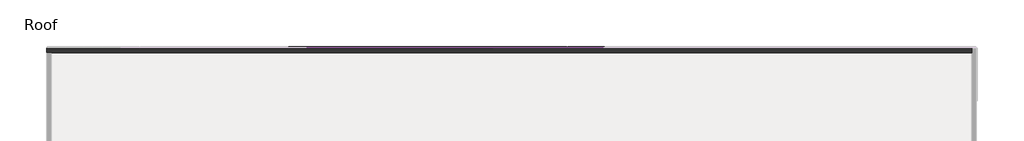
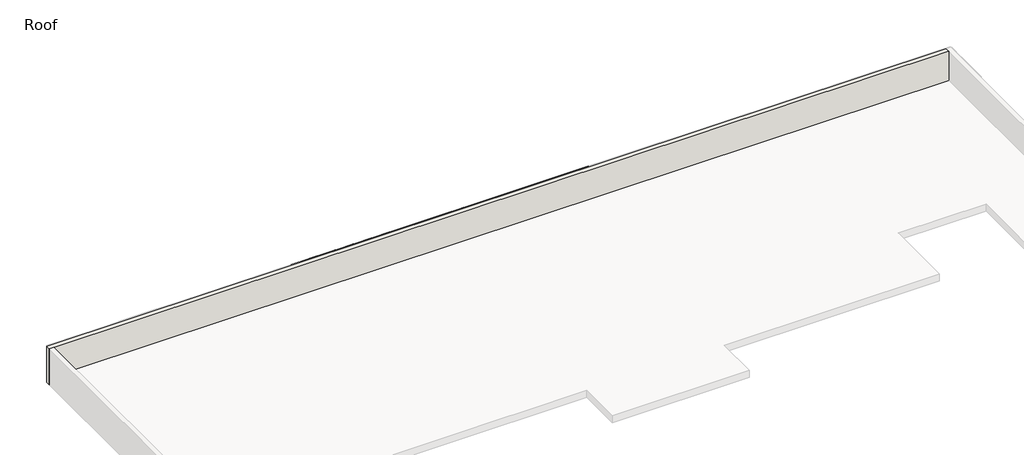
# One storey, part 3 of 5: 85 members, 34 plates, 1 wall.
"""IFC4 building model written with IfcOpenShell, lengths in millimetres."""

from ifc_helpers import new_model, si_unit, origin, place, context, project, spatial, faceted_brep, transform, mapped, element, save
from components import rectangular_mullion_25x25mm_ef735152, rectangular_mullion_25x25mm_e862664b, rectangular_mullion_25x25mm_75dba7a0, curtain_panels_solid_solid_panel_green_f9f5bd6f

model = new_model("IFC4")

# Units and contexts
model_context = context("Model", 3, world=origin())
ifc_project = project(units=[si_unit("LENGTHUNIT", "METRE", prefix="MILLI")], contexts=[model_context])

# Site, building, storey
site = spatial("IfcSite", under=ifc_project)
building = spatial("IfcBuilding", under=site)
storey = spatial("IfcBuildingStorey", under=building, Name="Roof", Elevation=14600.0)

# Members
placement = place(None, origin())
rectangular_mullion_25x25mm_shape = rectangular_mullion_25x25mm_ef735152(model_context)
element("IfcMember", 1, ObjectType="Rectangular Mullion : 25x25mm", at=placement, inside=storey, context=model_context, shape_type="MappedRepresentation", body=[
    mapped(rectangular_mullion_25x25mm_shape, transform((9099.0216521, 9309.2487558, 14625.0), x_axis=(-1.0, 0.0, 0.0), y_axis=(0.0, 1.0, 0.0), z_axis=(0.0, 0.0, -1.0))),
])
element("IfcMember", 2, ObjectType="Rectangular Mullion : 25x25mm", at=placement, inside=storey, context=model_context, shape_type="MappedRepresentation", body=[
    mapped(rectangular_mullion_25x25mm_shape, transform((9993.2919833, 9309.2487558, 14625.0), x_axis=(-1.0, 0.0, 0.0), y_axis=(0.0, 1.0, 0.0), z_axis=(0.0, 0.0, -1.0))),
])
element("IfcMember", 3, ObjectType="Rectangular Mullion : 25x25mm", at=placement, inside=storey, context=model_context, shape_type="MappedRepresentation", body=[
    mapped(rectangular_mullion_25x25mm_shape, transform((10887.5623144, 9309.2487558, 14625.0), x_axis=(-1.0, 0.0, 0.0), y_axis=(0.0, 1.0, 0.0), z_axis=(0.0, 0.0, -1.0))),
])
element("IfcMember", 4, ObjectType="Rectangular Mullion : 25x25mm", at=placement, inside=storey, context=model_context, shape_type="MappedRepresentation", body=[
    mapped(rectangular_mullion_25x25mm_shape, transform((11781.8326456, 9309.2487558, 14625.0), x_axis=(-1.0, 0.0, 0.0), y_axis=(0.0, 1.0, 0.0), z_axis=(0.0, 0.0, -1.0))),
])
element("IfcMember", 5, ObjectType="Rectangular Mullion : 25x25mm", at=placement, inside=storey, context=model_context, shape_type="MappedRepresentation", body=[
    mapped(rectangular_mullion_25x25mm_shape, transform((12676.1029768, 9309.2487558, 14625.0), x_axis=(-1.0, 0.0, 0.0), y_axis=(0.0, 1.0, 0.0), z_axis=(0.0, 0.0, -1.0))),
])
element("IfcMember", 6, ObjectType="Rectangular Mullion : 25x25mm", at=placement, inside=storey, context=model_context, shape_type="MappedRepresentation", body=[
    mapped(rectangular_mullion_25x25mm_shape, transform((13570.3733079, 9309.2487558, 14625.0), x_axis=(-1.0, 0.0, 0.0), y_axis=(0.0, 1.0, 0.0), z_axis=(0.0, 0.0, -1.0))),
])
element("IfcMember", 7, ObjectType="Rectangular Mullion : 25x25mm", at=placement, inside=storey, context=model_context, shape_type="MappedRepresentation", body=[
    mapped(rectangular_mullion_25x25mm_shape, transform((14464.6436391, 9309.2487558, 14625.0), x_axis=(-1.0, 0.0, 0.0), y_axis=(0.0, 1.0, 0.0), z_axis=(0.0, 0.0, -1.0))),
])
element("IfcMember", 8, ObjectType="Rectangular Mullion : 25x25mm", at=placement, inside=storey, context=model_context, shape_type="MappedRepresentation", body=[
    mapped(rectangular_mullion_25x25mm_shape, transform((15358.9139703, 9309.2487558, 14625.0), x_axis=(-1.0, 0.0, 0.0), y_axis=(0.0, 1.0, 0.0), z_axis=(0.0, 0.0, -1.0))),
])
element("IfcMember", 9, ObjectType="Rectangular Mullion : 25x25mm", at=placement, inside=storey, context=model_context, shape_type="MappedRepresentation", body=[
    mapped(rectangular_mullion_25x25mm_shape, transform((16253.1843014, 9309.2487558, 14625.0), x_axis=(-1.0, 0.0, 0.0), y_axis=(0.0, 1.0, 0.0), z_axis=(0.0, 0.0, -1.0))),
])
element("IfcMember", 10, ObjectType="Rectangular Mullion : 25x25mm", at=placement, inside=storey, context=model_context, shape_type="MappedRepresentation", body=[
    mapped(rectangular_mullion_25x25mm_shape, transform((17147.4546326, 9309.2487558, 14625.0), x_axis=(-1.0, 0.0, 0.0), y_axis=(0.0, 1.0, 0.0), z_axis=(0.0, 0.0, -1.0))),
])
element("IfcMember", 11, ObjectType="Rectangular Mullion : 25x25mm", at=placement, inside=storey, context=model_context, shape_type="MappedRepresentation", body=[
    mapped(rectangular_mullion_25x25mm_shape, transform((18041.7249638, 9309.2487558, 14625.0), x_axis=(-1.0, 0.0, 0.0), y_axis=(0.0, 1.0, 0.0), z_axis=(0.0, 0.0, -1.0))),
])
element("IfcMember", 12, ObjectType="Rectangular Mullion : 25x25mm", at=placement, inside=storey, context=model_context, shape_type="MappedRepresentation", body=[
    mapped(rectangular_mullion_25x25mm_shape, transform((18935.9952949, 9309.2487558, 14625.0), x_axis=(-1.0, 0.0, 0.0), y_axis=(0.0, 1.0, 0.0), z_axis=(0.0, 0.0, -1.0))),
])
element("IfcMember", 13, ObjectType="Rectangular Mullion : 25x25mm", at=placement, inside=storey, context=model_context, shape_type="MappedRepresentation", body=[
    mapped(rectangular_mullion_25x25mm_shape, transform((19830.2656261, 9309.2487558, 14625.0), x_axis=(-1.0, 0.0, 0.0), y_axis=(0.0, 1.0, 0.0), z_axis=(0.0, 0.0, -1.0))),
])
element("IfcMember", 14, ObjectType="Rectangular Mullion : 25x25mm", at=placement, inside=storey, context=model_context, shape_type="MappedRepresentation", body=[
    mapped(rectangular_mullion_25x25mm_shape, transform((20724.5359573, 9309.2487558, 14625.0), x_axis=(-1.0, 0.0, 0.0), y_axis=(0.0, 1.0, 0.0), z_axis=(0.0, 0.0, -1.0))),
])
element("IfcMember", 15, ObjectType="Rectangular Mullion : 25x25mm", at=placement, inside=storey, context=model_context, shape_type="MappedRepresentation", body=[
    mapped(rectangular_mullion_25x25mm_shape, transform((21618.8062884, 9309.2487558, 14625.0), x_axis=(-1.0, 0.0, 0.0), y_axis=(0.0, 1.0, 0.0), z_axis=(0.0, 0.0, -1.0))),
])
element("IfcMember", 16, ObjectType="Rectangular Mullion : 25x25mm", at=placement, inside=storey, context=model_context, shape_type="MappedRepresentation", body=[
    mapped(rectangular_mullion_25x25mm_shape, transform((22513.0766196, 9309.2487558, 14625.0), x_axis=(-1.0, 0.0, 0.0), y_axis=(0.0, 1.0, 0.0), z_axis=(0.0, 0.0, -1.0))),
])
element("IfcMember", 17, ObjectType="Rectangular Mullion : 25x25mm", at=placement, inside=storey, context=model_context, shape_type="MappedRepresentation", body=[
    mapped(rectangular_mullion_25x25mm_shape, transform((23407.3469508, 9309.2487558, 14625.0), x_axis=(-1.0, 0.0, 0.0), y_axis=(0.0, 1.0, 0.0), z_axis=(0.0, 0.0, -1.0))),
])
element("IfcMember", 18, ObjectType="Rectangular Mullion : 25x25mm", at=placement, inside=storey, context=model_context, shape_type="MappedRepresentation", body=[
    mapped(rectangular_mullion_25x25mm_shape, transform((9099.0216521, 9309.2487558, 15550.0), x_axis=(-1.0, 0.0, 0.0), y_axis=(0.0, 1.0, 0.0), z_axis=(0.0, 0.0, -1.0))),
])
element("IfcMember", 19, ObjectType="Rectangular Mullion : 25x25mm", at=placement, inside=storey, context=model_context, shape_type="MappedRepresentation", body=[
    mapped(rectangular_mullion_25x25mm_shape, transform((9993.2919833, 9309.2487558, 15550.0), x_axis=(-1.0, 0.0, 0.0), y_axis=(0.0, 1.0, 0.0), z_axis=(0.0, 0.0, -1.0))),
])
element("IfcMember", 20, ObjectType="Rectangular Mullion : 25x25mm", at=placement, inside=storey, context=model_context, shape_type="MappedRepresentation", body=[
    mapped(rectangular_mullion_25x25mm_shape, transform((10887.5623144, 9309.2487558, 15550.0), x_axis=(-1.0, 0.0, 0.0), y_axis=(0.0, 1.0, 0.0), z_axis=(0.0, 0.0, -1.0))),
])
element("IfcMember", 21, ObjectType="Rectangular Mullion : 25x25mm", at=placement, inside=storey, context=model_context, shape_type="MappedRepresentation", body=[
    mapped(rectangular_mullion_25x25mm_shape, transform((11781.8326456, 9309.2487558, 15550.0), x_axis=(-1.0, 0.0, 0.0), y_axis=(0.0, 1.0, 0.0), z_axis=(0.0, 0.0, -1.0))),
])
element("IfcMember", 22, ObjectType="Rectangular Mullion : 25x25mm", at=placement, inside=storey, context=model_context, shape_type="MappedRepresentation", body=[
    mapped(rectangular_mullion_25x25mm_shape, transform((12676.1029768, 9309.2487558, 15550.0), x_axis=(-1.0, 0.0, 0.0), y_axis=(0.0, 1.0, 0.0), z_axis=(0.0, 0.0, -1.0))),
])
element("IfcMember", 23, ObjectType="Rectangular Mullion : 25x25mm", at=placement, inside=storey, context=model_context, shape_type="MappedRepresentation", body=[
    mapped(rectangular_mullion_25x25mm_shape, transform((13570.3733079, 9309.2487558, 15550.0), x_axis=(-1.0, 0.0, 0.0), y_axis=(0.0, 1.0, 0.0), z_axis=(0.0, 0.0, -1.0))),
])
element("IfcMember", 24, ObjectType="Rectangular Mullion : 25x25mm", at=placement, inside=storey, context=model_context, shape_type="MappedRepresentation", body=[
    mapped(rectangular_mullion_25x25mm_shape, transform((14464.6436391, 9309.2487558, 15550.0), x_axis=(-1.0, 0.0, 0.0), y_axis=(0.0, 1.0, 0.0), z_axis=(0.0, 0.0, -1.0))),
])
element("IfcMember", 25, ObjectType="Rectangular Mullion : 25x25mm", at=placement, inside=storey, context=model_context, shape_type="MappedRepresentation", body=[
    mapped(rectangular_mullion_25x25mm_shape, transform((15358.9139703, 9309.2487558, 15550.0), x_axis=(-1.0, 0.0, 0.0), y_axis=(0.0, 1.0, 0.0), z_axis=(0.0, 0.0, -1.0))),
])
element("IfcMember", 26, ObjectType="Rectangular Mullion : 25x25mm", at=placement, inside=storey, context=model_context, shape_type="MappedRepresentation", body=[
    mapped(rectangular_mullion_25x25mm_shape, transform((16253.1843014, 9309.2487558, 15550.0), x_axis=(-1.0, 0.0, 0.0), y_axis=(0.0, 1.0, 0.0), z_axis=(0.0, 0.0, -1.0))),
])
element("IfcMember", 27, ObjectType="Rectangular Mullion : 25x25mm", at=placement, inside=storey, context=model_context, shape_type="MappedRepresentation", body=[
    mapped(rectangular_mullion_25x25mm_shape, transform((17147.4546326, 9309.2487558, 15550.0), x_axis=(-1.0, 0.0, 0.0), y_axis=(0.0, 1.0, 0.0), z_axis=(0.0, 0.0, -1.0))),
])
element("IfcMember", 28, ObjectType="Rectangular Mullion : 25x25mm", at=placement, inside=storey, context=model_context, shape_type="MappedRepresentation", body=[
    mapped(rectangular_mullion_25x25mm_shape, transform((18041.7249638, 9309.2487558, 15550.0), x_axis=(-1.0, 0.0, 0.0), y_axis=(0.0, 1.0, 0.0), z_axis=(0.0, 0.0, -1.0))),
])
element("IfcMember", 29, ObjectType="Rectangular Mullion : 25x25mm", at=placement, inside=storey, context=model_context, shape_type="MappedRepresentation", body=[
    mapped(rectangular_mullion_25x25mm_shape, transform((18935.9952949, 9309.2487558, 15550.0), x_axis=(-1.0, 0.0, 0.0), y_axis=(0.0, 1.0, 0.0), z_axis=(0.0, 0.0, -1.0))),
])
element("IfcMember", 30, ObjectType="Rectangular Mullion : 25x25mm", at=placement, inside=storey, context=model_context, shape_type="MappedRepresentation", body=[
    mapped(rectangular_mullion_25x25mm_shape, transform((19830.2656261, 9309.2487558, 15550.0), x_axis=(-1.0, 0.0, 0.0), y_axis=(0.0, 1.0, 0.0), z_axis=(0.0, 0.0, -1.0))),
])
element("IfcMember", 31, ObjectType="Rectangular Mullion : 25x25mm", at=placement, inside=storey, context=model_context, shape_type="MappedRepresentation", body=[
    mapped(rectangular_mullion_25x25mm_shape, transform((20724.5359573, 9309.2487558, 15550.0), x_axis=(-1.0, 0.0, 0.0), y_axis=(0.0, 1.0, 0.0), z_axis=(0.0, 0.0, -1.0))),
])
element("IfcMember", 32, ObjectType="Rectangular Mullion : 25x25mm", at=placement, inside=storey, context=model_context, shape_type="MappedRepresentation", body=[
    mapped(rectangular_mullion_25x25mm_shape, transform((21618.8062884, 9309.2487558, 15550.0), x_axis=(-1.0, 0.0, 0.0), y_axis=(0.0, 1.0, 0.0), z_axis=(0.0, 0.0, -1.0))),
])
element("IfcMember", 33, ObjectType="Rectangular Mullion : 25x25mm", at=placement, inside=storey, context=model_context, shape_type="MappedRepresentation", body=[
    mapped(rectangular_mullion_25x25mm_shape, transform((22513.0766196, 9309.2487558, 15550.0), x_axis=(-1.0, 0.0, 0.0), y_axis=(0.0, 1.0, 0.0), z_axis=(0.0, 0.0, -1.0))),
])
element("IfcMember", 34, ObjectType="Rectangular Mullion : 25x25mm", at=placement, inside=storey, context=model_context, shape_type="MappedRepresentation", body=[
    mapped(rectangular_mullion_25x25mm_shape, transform((23407.3469508, 9309.2487558, 15550.0), x_axis=(-1.0, 0.0, 0.0), y_axis=(0.0, 1.0, 0.0), z_axis=(0.0, 0.0, -1.0))),
])
rectangular_mullion_25x25mm_2_shape = rectangular_mullion_25x25mm_e862664b(model_context)
element("IfcMember", 35, ObjectType="Rectangular Mullion : 25x25mm", at=placement, inside=storey, context=model_context, shape_type="MappedRepresentation", body=[
    mapped(rectangular_mullion_25x25mm_2_shape, transform((24301.6172819, 9309.2487558, 16500.0), x_axis=(0.0, 0.0, 1.0), y_axis=(0.0, 1.0, 0.0), z_axis=(-1.0, 0.0, 0.0))),
])
element("IfcMember", 36, ObjectType="Rectangular Mullion : 25x25mm", at=placement, inside=storey, context=model_context, shape_type="MappedRepresentation", body=[
    mapped(rectangular_mullion_25x25mm_2_shape, transform((23407.3469508, 9309.2487558, 16500.0), x_axis=(0.0, 0.0, 1.0), y_axis=(0.0, 1.0, 0.0), z_axis=(-1.0, 0.0, 0.0))),
])
element("IfcMember", 37, ObjectType="Rectangular Mullion : 25x25mm", at=placement, inside=storey, context=model_context, shape_type="MappedRepresentation", body=[
    mapped(rectangular_mullion_25x25mm_2_shape, transform((22513.0766196, 9309.2487558, 16500.0), x_axis=(0.0, 0.0, 1.0), y_axis=(0.0, 1.0, 0.0), z_axis=(-1.0, 0.0, 0.0))),
])
element("IfcMember", 38, ObjectType="Rectangular Mullion : 25x25mm", at=placement, inside=storey, context=model_context, shape_type="MappedRepresentation", body=[
    mapped(rectangular_mullion_25x25mm_2_shape, transform((21618.8062884, 9309.2487558, 16500.0), x_axis=(0.0, 0.0, 1.0), y_axis=(0.0, 1.0, 0.0), z_axis=(-1.0, 0.0, 0.0))),
])
element("IfcMember", 39, ObjectType="Rectangular Mullion : 25x25mm", at=placement, inside=storey, context=model_context, shape_type="MappedRepresentation", body=[
    mapped(rectangular_mullion_25x25mm_2_shape, transform((20724.5359573, 9309.2487558, 16500.0), x_axis=(0.0, 0.0, 1.0), y_axis=(0.0, 1.0, 0.0), z_axis=(-1.0, 0.0, 0.0))),
])
element("IfcMember", 40, ObjectType="Rectangular Mullion : 25x25mm", at=placement, inside=storey, context=model_context, shape_type="MappedRepresentation", body=[
    mapped(rectangular_mullion_25x25mm_2_shape, transform((19830.2656261, 9309.2487558, 16500.0), x_axis=(0.0, 0.0, 1.0), y_axis=(0.0, 1.0, 0.0), z_axis=(-1.0, 0.0, 0.0))),
])
element("IfcMember", 41, ObjectType="Rectangular Mullion : 25x25mm", at=placement, inside=storey, context=model_context, shape_type="MappedRepresentation", body=[
    mapped(rectangular_mullion_25x25mm_2_shape, transform((18935.9952949, 9309.2487558, 16500.0), x_axis=(0.0, 0.0, 1.0), y_axis=(0.0, 1.0, 0.0), z_axis=(-1.0, 0.0, 0.0))),
])
element("IfcMember", 42, ObjectType="Rectangular Mullion : 25x25mm", at=placement, inside=storey, context=model_context, shape_type="MappedRepresentation", body=[
    mapped(rectangular_mullion_25x25mm_2_shape, transform((18041.7249638, 9309.2487558, 16500.0), x_axis=(0.0, 0.0, 1.0), y_axis=(0.0, 1.0, 0.0), z_axis=(-1.0, 0.0, 0.0))),
])
element("IfcMember", 43, ObjectType="Rectangular Mullion : 25x25mm", at=placement, inside=storey, context=model_context, shape_type="MappedRepresentation", body=[
    mapped(rectangular_mullion_25x25mm_2_shape, transform((17147.4546326, 9309.2487558, 16500.0), x_axis=(0.0, 0.0, 1.0), y_axis=(0.0, 1.0, 0.0), z_axis=(-1.0, 0.0, 0.0))),
])
element("IfcMember", 44, ObjectType="Rectangular Mullion : 25x25mm", at=placement, inside=storey, context=model_context, shape_type="MappedRepresentation", body=[
    mapped(rectangular_mullion_25x25mm_2_shape, transform((16253.1843014, 9309.2487558, 16500.0), x_axis=(0.0, 0.0, 1.0), y_axis=(0.0, 1.0, 0.0), z_axis=(-1.0, 0.0, 0.0))),
])
element("IfcMember", 45, ObjectType="Rectangular Mullion : 25x25mm", at=placement, inside=storey, context=model_context, shape_type="MappedRepresentation", body=[
    mapped(rectangular_mullion_25x25mm_2_shape, transform((15358.9139703, 9309.2487558, 16500.0), x_axis=(0.0, 0.0, 1.0), y_axis=(0.0, 1.0, 0.0), z_axis=(-1.0, 0.0, 0.0))),
])
element("IfcMember", 46, ObjectType="Rectangular Mullion : 25x25mm", at=placement, inside=storey, context=model_context, shape_type="MappedRepresentation", body=[
    mapped(rectangular_mullion_25x25mm_2_shape, transform((14464.6436391, 9309.2487558, 16500.0), x_axis=(0.0, 0.0, 1.0), y_axis=(0.0, 1.0, 0.0), z_axis=(-1.0, 0.0, 0.0))),
])
element("IfcMember", 47, ObjectType="Rectangular Mullion : 25x25mm", at=placement, inside=storey, context=model_context, shape_type="MappedRepresentation", body=[
    mapped(rectangular_mullion_25x25mm_2_shape, transform((13570.3733079, 9309.2487558, 16500.0), x_axis=(0.0, 0.0, 1.0), y_axis=(0.0, 1.0, 0.0), z_axis=(-1.0, 0.0, 0.0))),
])
element("IfcMember", 48, ObjectType="Rectangular Mullion : 25x25mm", at=placement, inside=storey, context=model_context, shape_type="MappedRepresentation", body=[
    mapped(rectangular_mullion_25x25mm_2_shape, transform((12676.1029768, 9309.2487558, 16500.0), x_axis=(0.0, 0.0, 1.0), y_axis=(0.0, 1.0, 0.0), z_axis=(-1.0, 0.0, 0.0))),
])
element("IfcMember", 49, ObjectType="Rectangular Mullion : 25x25mm", at=placement, inside=storey, context=model_context, shape_type="MappedRepresentation", body=[
    mapped(rectangular_mullion_25x25mm_2_shape, transform((11781.8326456, 9309.2487558, 16500.0), x_axis=(0.0, 0.0, 1.0), y_axis=(0.0, 1.0, 0.0), z_axis=(-1.0, 0.0, 0.0))),
])
element("IfcMember", 50, ObjectType="Rectangular Mullion : 25x25mm", at=placement, inside=storey, context=model_context, shape_type="MappedRepresentation", body=[
    mapped(rectangular_mullion_25x25mm_2_shape, transform((10887.5623144, 9309.2487558, 16500.0), x_axis=(0.0, 0.0, 1.0), y_axis=(0.0, 1.0, 0.0), z_axis=(-1.0, 0.0, 0.0))),
])
element("IfcMember", 51, ObjectType="Rectangular Mullion : 25x25mm", at=placement, inside=storey, context=model_context, shape_type="MappedRepresentation", body=[
    mapped(rectangular_mullion_25x25mm_2_shape, transform((24301.6172819, 9309.2487558, 14600.0), x_axis=(0.0, 0.0, -1.0), y_axis=(0.0, 1.0, 0.0), z_axis=(1.0, 0.0, 0.0))),
])
element("IfcMember", 52, ObjectType="Rectangular Mullion : 25x25mm", at=placement, inside=storey, context=model_context, shape_type="MappedRepresentation", body=[
    mapped(rectangular_mullion_25x25mm_2_shape, transform((23407.3469508, 9309.2487558, 14600.0), x_axis=(0.0, 0.0, -1.0), y_axis=(0.0, 1.0, 0.0), z_axis=(1.0, 0.0, 0.0))),
])
element("IfcMember", 53, ObjectType="Rectangular Mullion : 25x25mm", at=placement, inside=storey, context=model_context, shape_type="MappedRepresentation", body=[
    mapped(rectangular_mullion_25x25mm_2_shape, transform((22513.0766196, 9309.2487558, 14600.0), x_axis=(0.0, 0.0, -1.0), y_axis=(0.0, 1.0, 0.0), z_axis=(1.0, 0.0, 0.0))),
])
element("IfcMember", 54, ObjectType="Rectangular Mullion : 25x25mm", at=placement, inside=storey, context=model_context, shape_type="MappedRepresentation", body=[
    mapped(rectangular_mullion_25x25mm_2_shape, transform((21618.8062884, 9309.2487558, 14600.0), x_axis=(0.0, 0.0, -1.0), y_axis=(0.0, 1.0, 0.0), z_axis=(1.0, 0.0, 0.0))),
])
element("IfcMember", 55, ObjectType="Rectangular Mullion : 25x25mm", at=placement, inside=storey, context=model_context, shape_type="MappedRepresentation", body=[
    mapped(rectangular_mullion_25x25mm_2_shape, transform((20724.5359573, 9309.2487558, 14600.0), x_axis=(0.0, 0.0, -1.0), y_axis=(0.0, 1.0, 0.0), z_axis=(1.0, 0.0, 0.0))),
])
element("IfcMember", 56, ObjectType="Rectangular Mullion : 25x25mm", at=placement, inside=storey, context=model_context, shape_type="MappedRepresentation", body=[
    mapped(rectangular_mullion_25x25mm_2_shape, transform((19830.2656261, 9309.2487558, 14600.0), x_axis=(0.0, 0.0, -1.0), y_axis=(0.0, 1.0, 0.0), z_axis=(1.0, 0.0, 0.0))),
])
element("IfcMember", 57, ObjectType="Rectangular Mullion : 25x25mm", at=placement, inside=storey, context=model_context, shape_type="MappedRepresentation", body=[
    mapped(rectangular_mullion_25x25mm_2_shape, transform((18935.9952949, 9309.2487558, 14600.0), x_axis=(0.0, 0.0, -1.0), y_axis=(0.0, 1.0, 0.0), z_axis=(1.0, 0.0, 0.0))),
])
element("IfcMember", 58, ObjectType="Rectangular Mullion : 25x25mm", at=placement, inside=storey, context=model_context, shape_type="MappedRepresentation", body=[
    mapped(rectangular_mullion_25x25mm_2_shape, transform((18041.7249638, 9309.2487558, 14600.0), x_axis=(0.0, 0.0, -1.0), y_axis=(0.0, 1.0, 0.0), z_axis=(1.0, 0.0, 0.0))),
])
element("IfcMember", 59, ObjectType="Rectangular Mullion : 25x25mm", at=placement, inside=storey, context=model_context, shape_type="MappedRepresentation", body=[
    mapped(rectangular_mullion_25x25mm_2_shape, transform((17147.4546326, 9309.2487558, 14600.0), x_axis=(0.0, 0.0, -1.0), y_axis=(0.0, 1.0, 0.0), z_axis=(1.0, 0.0, 0.0))),
])
element("IfcMember", 60, ObjectType="Rectangular Mullion : 25x25mm", at=placement, inside=storey, context=model_context, shape_type="MappedRepresentation", body=[
    mapped(rectangular_mullion_25x25mm_2_shape, transform((16253.1843014, 9309.2487558, 14600.0), x_axis=(0.0, 0.0, -1.0), y_axis=(0.0, 1.0, 0.0), z_axis=(1.0, 0.0, 0.0))),
])
element("IfcMember", 61, ObjectType="Rectangular Mullion : 25x25mm", at=placement, inside=storey, context=model_context, shape_type="MappedRepresentation", body=[
    mapped(rectangular_mullion_25x25mm_2_shape, transform((15358.9139703, 9309.2487558, 14600.0), x_axis=(0.0, 0.0, -1.0), y_axis=(0.0, 1.0, 0.0), z_axis=(1.0, 0.0, 0.0))),
])
element("IfcMember", 62, ObjectType="Rectangular Mullion : 25x25mm", at=placement, inside=storey, context=model_context, shape_type="MappedRepresentation", body=[
    mapped(rectangular_mullion_25x25mm_2_shape, transform((14464.6436391, 9309.2487558, 14600.0), x_axis=(0.0, 0.0, -1.0), y_axis=(0.0, 1.0, 0.0), z_axis=(1.0, 0.0, 0.0))),
])
element("IfcMember", 63, ObjectType="Rectangular Mullion : 25x25mm", at=placement, inside=storey, context=model_context, shape_type="MappedRepresentation", body=[
    mapped(rectangular_mullion_25x25mm_2_shape, transform((13570.3733079, 9309.2487558, 14600.0), x_axis=(0.0, 0.0, -1.0), y_axis=(0.0, 1.0, 0.0), z_axis=(1.0, 0.0, 0.0))),
])
element("IfcMember", 64, ObjectType="Rectangular Mullion : 25x25mm", at=placement, inside=storey, context=model_context, shape_type="MappedRepresentation", body=[
    mapped(rectangular_mullion_25x25mm_2_shape, transform((12676.1029768, 9309.2487558, 14600.0), x_axis=(0.0, 0.0, -1.0), y_axis=(0.0, 1.0, 0.0), z_axis=(1.0, 0.0, 0.0))),
])
element("IfcMember", 65, ObjectType="Rectangular Mullion : 25x25mm", at=placement, inside=storey, context=model_context, shape_type="MappedRepresentation", body=[
    mapped(rectangular_mullion_25x25mm_2_shape, transform((11781.8326456, 9309.2487558, 14600.0), x_axis=(0.0, 0.0, -1.0), y_axis=(0.0, 1.0, 0.0), z_axis=(1.0, 0.0, 0.0))),
])
element("IfcMember", 66, ObjectType="Rectangular Mullion : 25x25mm", at=placement, inside=storey, context=model_context, shape_type="MappedRepresentation", body=[
    mapped(rectangular_mullion_25x25mm_2_shape, transform((10887.5623144, 9309.2487558, 14600.0), x_axis=(0.0, 0.0, -1.0), y_axis=(0.0, 1.0, 0.0), z_axis=(1.0, 0.0, 0.0))),
])
element("IfcMember", 67, ObjectType="Rectangular Mullion : 25x25mm", at=placement, inside=storey, context=model_context, shape_type="MappedRepresentation", body=[
    mapped(rectangular_mullion_25x25mm_2_shape, transform((9993.2919833, 9309.2487558, 14600.0), x_axis=(0.0, 0.0, -1.0), y_axis=(0.0, 1.0, 0.0), z_axis=(1.0, 0.0, 0.0))),
])
element("IfcMember", 68, ObjectType="Rectangular Mullion : 25x25mm", at=placement, inside=storey, context=model_context, shape_type="MappedRepresentation", body=[
    mapped(rectangular_mullion_25x25mm_2_shape, transform((9099.0216521, 9309.2487558, 14600.0), x_axis=(0.0, 0.0, -1.0), y_axis=(0.0, 1.0, 0.0), z_axis=(1.0, 0.0, 0.0))),
])
rectangular_mullion_25x25mm_3_shape = rectangular_mullion_25x25mm_75dba7a0(model_context)
element("IfcMember", 69, ObjectType="Rectangular Mullion : 25x25mm", at=placement, inside=storey, context=model_context, shape_type="MappedRepresentation", body=[
    mapped(rectangular_mullion_25x25mm_3_shape, transform((23419.8469508, 9309.2487558, 15550.0), x_axis=(0.0, 0.0, 1.0), y_axis=(0.0, 1.0, 0.0), z_axis=(-1.0, 0.0, 0.0))),
])
element("IfcMember", 70, ObjectType="Rectangular Mullion : 25x25mm", at=placement, inside=storey, context=model_context, shape_type="MappedRepresentation", body=[
    mapped(rectangular_mullion_25x25mm_3_shape, transform((22525.5766196, 9309.2487558, 15550.0), x_axis=(0.0, 0.0, 1.0), y_axis=(0.0, 1.0, 0.0), z_axis=(-1.0, 0.0, 0.0))),
])
element("IfcMember", 71, ObjectType="Rectangular Mullion : 25x25mm", at=placement, inside=storey, context=model_context, shape_type="MappedRepresentation", body=[
    mapped(rectangular_mullion_25x25mm_3_shape, transform((21631.3062884, 9309.2487558, 15550.0), x_axis=(0.0, 0.0, 1.0), y_axis=(0.0, 1.0, 0.0), z_axis=(-1.0, 0.0, 0.0))),
])
element("IfcMember", 72, ObjectType="Rectangular Mullion : 25x25mm", at=placement, inside=storey, context=model_context, shape_type="MappedRepresentation", body=[
    mapped(rectangular_mullion_25x25mm_3_shape, transform((20737.0359573, 9309.2487558, 15550.0), x_axis=(0.0, 0.0, 1.0), y_axis=(0.0, 1.0, 0.0), z_axis=(-1.0, 0.0, 0.0))),
])
element("IfcMember", 73, ObjectType="Rectangular Mullion : 25x25mm", at=placement, inside=storey, context=model_context, shape_type="MappedRepresentation", body=[
    mapped(rectangular_mullion_25x25mm_3_shape, transform((19842.7656261, 9309.2487558, 15550.0), x_axis=(0.0, 0.0, 1.0), y_axis=(0.0, 1.0, 0.0), z_axis=(-1.0, 0.0, 0.0))),
])
element("IfcMember", 74, ObjectType="Rectangular Mullion : 25x25mm", at=placement, inside=storey, context=model_context, shape_type="MappedRepresentation", body=[
    mapped(rectangular_mullion_25x25mm_3_shape, transform((18948.4952949, 9309.2487558, 15550.0), x_axis=(0.0, 0.0, 1.0), y_axis=(0.0, 1.0, 0.0), z_axis=(-1.0, 0.0, 0.0))),
])
element("IfcMember", 75, ObjectType="Rectangular Mullion : 25x25mm", at=placement, inside=storey, context=model_context, shape_type="MappedRepresentation", body=[
    mapped(rectangular_mullion_25x25mm_3_shape, transform((18054.2249638, 9309.2487558, 15550.0), x_axis=(0.0, 0.0, 1.0), y_axis=(0.0, 1.0, 0.0), z_axis=(-1.0, 0.0, 0.0))),
])
element("IfcMember", 76, ObjectType="Rectangular Mullion : 25x25mm", at=placement, inside=storey, context=model_context, shape_type="MappedRepresentation", body=[
    mapped(rectangular_mullion_25x25mm_3_shape, transform((17159.9546326, 9309.2487558, 15550.0), x_axis=(0.0, 0.0, 1.0), y_axis=(0.0, 1.0, 0.0), z_axis=(-1.0, 0.0, 0.0))),
])
element("IfcMember", 77, ObjectType="Rectangular Mullion : 25x25mm", at=placement, inside=storey, context=model_context, shape_type="MappedRepresentation", body=[
    mapped(rectangular_mullion_25x25mm_3_shape, transform((16265.6843014, 9309.2487558, 15550.0), x_axis=(0.0, 0.0, 1.0), y_axis=(0.0, 1.0, 0.0), z_axis=(-1.0, 0.0, 0.0))),
])
element("IfcMember", 78, ObjectType="Rectangular Mullion : 25x25mm", at=placement, inside=storey, context=model_context, shape_type="MappedRepresentation", body=[
    mapped(rectangular_mullion_25x25mm_3_shape, transform((15371.4139703, 9309.2487558, 15550.0), x_axis=(0.0, 0.0, 1.0), y_axis=(0.0, 1.0, 0.0), z_axis=(-1.0, 0.0, 0.0))),
])
element("IfcMember", 79, ObjectType="Rectangular Mullion : 25x25mm", at=placement, inside=storey, context=model_context, shape_type="MappedRepresentation", body=[
    mapped(rectangular_mullion_25x25mm_3_shape, transform((14477.1436391, 9309.2487558, 15550.0), x_axis=(0.0, 0.0, 1.0), y_axis=(0.0, 1.0, 0.0), z_axis=(-1.0, 0.0, 0.0))),
])
element("IfcMember", 80, ObjectType="Rectangular Mullion : 25x25mm", at=placement, inside=storey, context=model_context, shape_type="MappedRepresentation", body=[
    mapped(rectangular_mullion_25x25mm_3_shape, transform((13582.8733079, 9309.2487558, 15550.0), x_axis=(0.0, 0.0, 1.0), y_axis=(0.0, 1.0, 0.0), z_axis=(-1.0, 0.0, 0.0))),
])
element("IfcMember", 81, ObjectType="Rectangular Mullion : 25x25mm", at=placement, inside=storey, context=model_context, shape_type="MappedRepresentation", body=[
    mapped(rectangular_mullion_25x25mm_3_shape, transform((12688.6029768, 9309.2487558, 15550.0), x_axis=(0.0, 0.0, 1.0), y_axis=(0.0, 1.0, 0.0), z_axis=(-1.0, 0.0, 0.0))),
])
element("IfcMember", 82, ObjectType="Rectangular Mullion : 25x25mm", at=placement, inside=storey, context=model_context, shape_type="MappedRepresentation", body=[
    mapped(rectangular_mullion_25x25mm_3_shape, transform((11794.3326456, 9309.2487558, 15550.0), x_axis=(0.0, 0.0, 1.0), y_axis=(0.0, 1.0, 0.0), z_axis=(-1.0, 0.0, 0.0))),
])
element("IfcMember", 83, ObjectType="Rectangular Mullion : 25x25mm", at=placement, inside=storey, context=model_context, shape_type="MappedRepresentation", body=[
    mapped(rectangular_mullion_25x25mm_3_shape, transform((10900.0623144, 9309.2487558, 15550.0), x_axis=(0.0, 0.0, 1.0), y_axis=(0.0, 1.0, 0.0), z_axis=(-1.0, 0.0, 0.0))),
])
element("IfcMember", 84, ObjectType="Rectangular Mullion : 25x25mm", at=placement, inside=storey, context=model_context, shape_type="MappedRepresentation", body=[
    mapped(rectangular_mullion_25x25mm_3_shape, transform((10005.7919833, 9309.2487558, 15550.0), x_axis=(0.0, 0.0, 1.0), y_axis=(0.0, 1.0, 0.0), z_axis=(-1.0, 0.0, 0.0))),
])
element("IfcMember", 85, ObjectType="Rectangular Mullion : 25x25mm", at=placement, inside=storey, context=model_context, shape_type="MappedRepresentation", body=[
    mapped(rectangular_mullion_25x25mm_3_shape, transform((9111.5216521, 9309.2487558, 15550.0), x_axis=(0.0, 0.0, 1.0), y_axis=(0.0, 1.0, 0.0), z_axis=(-1.0, 0.0, 0.0))),
])

# Plates
curtain_panels_solid_solid_panel_green_shape = curtain_panels_solid_solid_panel_green_f9f5bd6f(model_context)
element("IfcPlate", 86, ObjectType="Curtain_Panels_Solid : Solid_Panel_Green", at=placement, inside=storey, context=model_context, shape_type="MappedRepresentation", body=[
    mapped(curtain_panels_solid_solid_panel_green_shape, transform((10440.4271489, 9309.2487558, 14625.0), x_axis=(-1.0, 0.0, 0.0), y_axis=(0.0, -1.0, 0.0), z_axis=(0.0, 0.0, 1.0))),
])
element("IfcPlate", 87, ObjectType="Curtain_Panels_Solid : Solid_Panel_Green", at=placement, inside=storey, context=model_context, shape_type="MappedRepresentation", body=[
    mapped(curtain_panels_solid_solid_panel_green_shape, transform((10440.4271489, 9309.2487558, 15562.5), x_axis=(-1.0, 0.0, 0.0), y_axis=(0.0, -1.0, 0.0), z_axis=(0.0, 0.0, 1.0))),
])
element("IfcPlate", 88, ObjectType="Curtain_Panels_Solid : Solid_Panel_Green", at=placement, inside=storey, context=model_context, shape_type="MappedRepresentation", body=[
    mapped(curtain_panels_solid_solid_panel_green_shape, transform((11334.69748, 9309.2487558, 14625.0), x_axis=(-1.0, 0.0, 0.0), y_axis=(0.0, -1.0, 0.0), z_axis=(0.0, 0.0, 1.0))),
])
element("IfcPlate", 89, ObjectType="Curtain_Panels_Solid : Solid_Panel_Green", at=placement, inside=storey, context=model_context, shape_type="MappedRepresentation", body=[
    mapped(curtain_panels_solid_solid_panel_green_shape, transform((11334.69748, 9309.2487558, 15562.5), x_axis=(-1.0, 0.0, 0.0), y_axis=(0.0, -1.0, 0.0), z_axis=(0.0, 0.0, 1.0))),
])
element("IfcPlate", 90, ObjectType="Curtain_Panels_Solid : Solid_Panel_Green", at=placement, inside=storey, context=model_context, shape_type="MappedRepresentation", body=[
    mapped(curtain_panels_solid_solid_panel_green_shape, transform((12228.9678112, 9309.2487558, 14625.0), x_axis=(-1.0, 0.0, 0.0), y_axis=(0.0, -1.0, 0.0), z_axis=(0.0, 0.0, 1.0))),
])
element("IfcPlate", 91, ObjectType="Curtain_Panels_Solid : Solid_Panel_Green", at=placement, inside=storey, context=model_context, shape_type="MappedRepresentation", body=[
    mapped(curtain_panels_solid_solid_panel_green_shape, transform((12228.9678112, 9309.2487558, 15562.5), x_axis=(-1.0, 0.0, 0.0), y_axis=(0.0, -1.0, 0.0), z_axis=(0.0, 0.0, 1.0))),
])
element("IfcPlate", 92, ObjectType="Curtain_Panels_Solid : Solid_Panel_Green", at=placement, inside=storey, context=model_context, shape_type="MappedRepresentation", body=[
    mapped(curtain_panels_solid_solid_panel_green_shape, transform((13123.2381424, 9309.2487558, 14625.0), x_axis=(-1.0, 0.0, 0.0), y_axis=(0.0, -1.0, 0.0), z_axis=(0.0, 0.0, 1.0))),
])
element("IfcPlate", 93, ObjectType="Curtain_Panels_Solid : Solid_Panel_Green", at=placement, inside=storey, context=model_context, shape_type="MappedRepresentation", body=[
    mapped(curtain_panels_solid_solid_panel_green_shape, transform((13123.2381424, 9309.2487558, 15562.5), x_axis=(-1.0, 0.0, 0.0), y_axis=(0.0, -1.0, 0.0), z_axis=(0.0, 0.0, 1.0))),
])
element("IfcPlate", 94, ObjectType="Curtain_Panels_Solid : Solid_Panel_Green", at=placement, inside=storey, context=model_context, shape_type="MappedRepresentation", body=[
    mapped(curtain_panels_solid_solid_panel_green_shape, transform((14017.5084735, 9309.2487558, 14625.0), x_axis=(-1.0, 0.0, 0.0), y_axis=(0.0, -1.0, 0.0), z_axis=(0.0, 0.0, 1.0))),
])
element("IfcPlate", 95, ObjectType="Curtain_Panels_Solid : Solid_Panel_Green", at=placement, inside=storey, context=model_context, shape_type="MappedRepresentation", body=[
    mapped(curtain_panels_solid_solid_panel_green_shape, transform((14017.5084735, 9309.2487558, 15562.5), x_axis=(-1.0, 0.0, 0.0), y_axis=(0.0, -1.0, 0.0), z_axis=(0.0, 0.0, 1.0))),
])
element("IfcPlate", 96, ObjectType="Curtain_Panels_Solid : Solid_Panel_Green", at=placement, inside=storey, context=model_context, shape_type="MappedRepresentation", body=[
    mapped(curtain_panels_solid_solid_panel_green_shape, transform((14911.7788047, 9309.2487558, 14625.0), x_axis=(-1.0, 0.0, 0.0), y_axis=(0.0, -1.0, 0.0), z_axis=(0.0, 0.0, 1.0))),
])
element("IfcPlate", 97, ObjectType="Curtain_Panels_Solid : Solid_Panel_Green", at=placement, inside=storey, context=model_context, shape_type="MappedRepresentation", body=[
    mapped(curtain_panels_solid_solid_panel_green_shape, transform((14911.7788047, 9309.2487558, 15562.5), x_axis=(-1.0, 0.0, 0.0), y_axis=(0.0, -1.0, 0.0), z_axis=(0.0, 0.0, 1.0))),
])
element("IfcPlate", 98, ObjectType="Curtain_Panels_Solid : Solid_Panel_Green", at=placement, inside=storey, context=model_context, shape_type="MappedRepresentation", body=[
    mapped(curtain_panels_solid_solid_panel_green_shape, transform((15806.0491359, 9309.2487558, 14625.0), x_axis=(-1.0, 0.0, 0.0), y_axis=(0.0, -1.0, 0.0), z_axis=(0.0, 0.0, 1.0))),
])
element("IfcPlate", 99, ObjectType="Curtain_Panels_Solid : Solid_Panel_Green", at=placement, inside=storey, context=model_context, shape_type="MappedRepresentation", body=[
    mapped(curtain_panels_solid_solid_panel_green_shape, transform((15806.0491359, 9309.2487558, 15562.5), x_axis=(-1.0, 0.0, 0.0), y_axis=(0.0, -1.0, 0.0), z_axis=(0.0, 0.0, 1.0))),
])
element("IfcPlate", 100, ObjectType="Curtain_Panels_Solid : Solid_Panel_Green", at=placement, inside=storey, context=model_context, shape_type="MappedRepresentation", body=[
    mapped(curtain_panels_solid_solid_panel_green_shape, transform((16700.319467, 9309.2487558, 14625.0), x_axis=(-1.0, 0.0, 0.0), y_axis=(0.0, -1.0, 0.0), z_axis=(0.0, 0.0, 1.0))),
])
element("IfcPlate", 101, ObjectType="Curtain_Panels_Solid : Solid_Panel_Green", at=placement, inside=storey, context=model_context, shape_type="MappedRepresentation", body=[
    mapped(curtain_panels_solid_solid_panel_green_shape, transform((16700.319467, 9309.2487558, 15562.5), x_axis=(-1.0, 0.0, 0.0), y_axis=(0.0, -1.0, 0.0), z_axis=(0.0, 0.0, 1.0))),
])
element("IfcPlate", 102, ObjectType="Curtain_Panels_Solid : Solid_Panel_Green", at=placement, inside=storey, context=model_context, shape_type="MappedRepresentation", body=[
    mapped(curtain_panels_solid_solid_panel_green_shape, transform((17594.5897982, 9309.2487558, 14625.0), x_axis=(-1.0, 0.0, 0.0), y_axis=(0.0, -1.0, 0.0), z_axis=(0.0, 0.0, 1.0))),
])
element("IfcPlate", 103, ObjectType="Curtain_Panels_Solid : Solid_Panel_Green", at=placement, inside=storey, context=model_context, shape_type="MappedRepresentation", body=[
    mapped(curtain_panels_solid_solid_panel_green_shape, transform((17594.5897982, 9309.2487558, 15562.5), x_axis=(-1.0, 0.0, 0.0), y_axis=(0.0, -1.0, 0.0), z_axis=(0.0, 0.0, 1.0))),
])
element("IfcPlate", 104, ObjectType="Curtain_Panels_Solid : Solid_Panel_Green", at=placement, inside=storey, context=model_context, shape_type="MappedRepresentation", body=[
    mapped(curtain_panels_solid_solid_panel_green_shape, transform((18488.8601293, 9309.2487558, 14625.0), x_axis=(-1.0, 0.0, 0.0), y_axis=(0.0, -1.0, 0.0), z_axis=(0.0, 0.0, 1.0))),
])
element("IfcPlate", 105, ObjectType="Curtain_Panels_Solid : Solid_Panel_Green", at=placement, inside=storey, context=model_context, shape_type="MappedRepresentation", body=[
    mapped(curtain_panels_solid_solid_panel_green_shape, transform((18488.8601293, 9309.2487558, 15562.5), x_axis=(-1.0, 0.0, 0.0), y_axis=(0.0, -1.0, 0.0), z_axis=(0.0, 0.0, 1.0))),
])
element("IfcPlate", 106, ObjectType="Curtain_Panels_Solid : Solid_Panel_Green", at=placement, inside=storey, context=model_context, shape_type="MappedRepresentation", body=[
    mapped(curtain_panels_solid_solid_panel_green_shape, transform((19383.1304605, 9309.2487558, 14625.0), x_axis=(-1.0, 0.0, 0.0), y_axis=(0.0, -1.0, 0.0), z_axis=(0.0, 0.0, 1.0))),
])
element("IfcPlate", 107, ObjectType="Curtain_Panels_Solid : Solid_Panel_Green", at=placement, inside=storey, context=model_context, shape_type="MappedRepresentation", body=[
    mapped(curtain_panels_solid_solid_panel_green_shape, transform((19383.1304605, 9309.2487558, 15562.5), x_axis=(-1.0, 0.0, 0.0), y_axis=(0.0, -1.0, 0.0), z_axis=(0.0, 0.0, 1.0))),
])
element("IfcPlate", 108, ObjectType="Curtain_Panels_Solid : Solid_Panel_Green", at=placement, inside=storey, context=model_context, shape_type="MappedRepresentation", body=[
    mapped(curtain_panels_solid_solid_panel_green_shape, transform((20277.4007917, 9309.2487558, 14625.0), x_axis=(-1.0, 0.0, 0.0), y_axis=(0.0, -1.0, 0.0), z_axis=(0.0, 0.0, 1.0))),
])
element("IfcPlate", 109, ObjectType="Curtain_Panels_Solid : Solid_Panel_Green", at=placement, inside=storey, context=model_context, shape_type="MappedRepresentation", body=[
    mapped(curtain_panels_solid_solid_panel_green_shape, transform((20277.4007917, 9309.2487558, 15562.5), x_axis=(-1.0, 0.0, 0.0), y_axis=(0.0, -1.0, 0.0), z_axis=(0.0, 0.0, 1.0))),
])
element("IfcPlate", 110, ObjectType="Curtain_Panels_Solid : Solid_Panel_Green", at=placement, inside=storey, context=model_context, shape_type="MappedRepresentation", body=[
    mapped(curtain_panels_solid_solid_panel_green_shape, transform((21171.6711228, 9309.2487558, 14625.0), x_axis=(-1.0, 0.0, 0.0), y_axis=(0.0, -1.0, 0.0), z_axis=(0.0, 0.0, 1.0))),
])
element("IfcPlate", 111, ObjectType="Curtain_Panels_Solid : Solid_Panel_Green", at=placement, inside=storey, context=model_context, shape_type="MappedRepresentation", body=[
    mapped(curtain_panels_solid_solid_panel_green_shape, transform((21171.6711228, 9309.2487558, 15562.5), x_axis=(-1.0, 0.0, 0.0), y_axis=(0.0, -1.0, 0.0), z_axis=(0.0, 0.0, 1.0))),
])
element("IfcPlate", 112, ObjectType="Curtain_Panels_Solid : Solid_Panel_Green", at=placement, inside=storey, context=model_context, shape_type="MappedRepresentation", body=[
    mapped(curtain_panels_solid_solid_panel_green_shape, transform((22065.941454, 9309.2487558, 14625.0), x_axis=(-1.0, 0.0, 0.0), y_axis=(0.0, -1.0, 0.0), z_axis=(0.0, 0.0, 1.0))),
])
element("IfcPlate", 113, ObjectType="Curtain_Panels_Solid : Solid_Panel_Green", at=placement, inside=storey, context=model_context, shape_type="MappedRepresentation", body=[
    mapped(curtain_panels_solid_solid_panel_green_shape, transform((22065.941454, 9309.2487558, 15562.5), x_axis=(-1.0, 0.0, 0.0), y_axis=(0.0, -1.0, 0.0), z_axis=(0.0, 0.0, 1.0))),
])
element("IfcPlate", 114, ObjectType="Curtain_Panels_Solid : Solid_Panel_Green", at=placement, inside=storey, context=model_context, shape_type="MappedRepresentation", body=[
    mapped(curtain_panels_solid_solid_panel_green_shape, transform((22960.2117852, 9309.2487558, 14625.0), x_axis=(-1.0, 0.0, 0.0), y_axis=(0.0, -1.0, 0.0), z_axis=(0.0, 0.0, 1.0))),
])
element("IfcPlate", 115, ObjectType="Curtain_Panels_Solid : Solid_Panel_Green", at=placement, inside=storey, context=model_context, shape_type="MappedRepresentation", body=[
    mapped(curtain_panels_solid_solid_panel_green_shape, transform((22960.2117852, 9309.2487558, 15562.5), x_axis=(-1.0, 0.0, 0.0), y_axis=(0.0, -1.0, 0.0), z_axis=(0.0, 0.0, 1.0))),
])
element("IfcPlate", 116, ObjectType="Curtain_Panels_Solid : Solid_Panel_Green", at=placement, inside=storey, context=model_context, shape_type="MappedRepresentation", body=[
    mapped(curtain_panels_solid_solid_panel_green_shape, transform((23854.4821163, 9309.2487558, 14625.0), x_axis=(-1.0, 0.0, 0.0), y_axis=(0.0, -1.0, 0.0), z_axis=(0.0, 0.0, 1.0))),
])
element("IfcPlate", 117, ObjectType="Curtain_Panels_Solid : Solid_Panel_Green", at=placement, inside=storey, context=model_context, shape_type="MappedRepresentation", body=[
    mapped(curtain_panels_solid_solid_panel_green_shape, transform((23854.4821163, 9309.2487558, 15562.5), x_axis=(-1.0, 0.0, 0.0), y_axis=(0.0, -1.0, 0.0), z_axis=(0.0, 0.0, 1.0))),
])
element("IfcPlate", 118, ObjectType="Curtain_Panels_Solid : Solid_Panel_Green", at=placement, inside=storey, context=model_context, shape_type="MappedRepresentation", body=[
    mapped(curtain_panels_solid_solid_panel_green_shape, transform((24748.7524475, 9309.2487558, 14625.0), x_axis=(-1.0, 0.0, 0.0), y_axis=(0.0, -1.0, 0.0), z_axis=(0.0, 0.0, 1.0))),
])
element("IfcPlate", 119, ObjectType="Curtain_Panels_Solid : Solid_Panel_Green", at=placement, inside=storey, context=model_context, shape_type="MappedRepresentation", body=[
    mapped(curtain_panels_solid_solid_panel_green_shape, transform((24748.7524475, 9309.2487558, 15562.5), x_axis=(-1.0, 0.0, 0.0), y_axis=(0.0, -1.0, 0.0), z_axis=(0.0, 0.0, 1.0))),
])

# Wall
element("IfcWall", 120, ObjectType="Wall-Ext_215Concrete", at=placement, inside=storey, context=model_context, shape_type="Brep", body=[
    faceted_brep([(-1644.7223222, 9065.4025502, 14600.0), (-1428.7223222, 9065.4025502, 14600.0), (42877.7942367, 9065.4025502, 14600.0), (42877.7942367, 9065.4025502, 16500.0), (-1428.7223222, 9065.4025502, 16500.0), (-1644.7223222, 9065.4025502, 16500.0), (-1644.7223222, 9281.4025502, 14600.0), (-1644.7223222, 9281.4025502, 16500.0), (42877.7942367, 9281.4025502, 16500.0), (42877.7942367, 9281.4025502, 14600.0)], [[[0, 1, 2, 3, 4, 5]], [[6, 7, 8, 9]], [[2, 1, 0, 6, 9]], [[5, 4, 3, 8, 7]], [[0, 5, 7, 6]], [[3, 2, 9, 8]]]),
])

save(model, "model.ifc")
